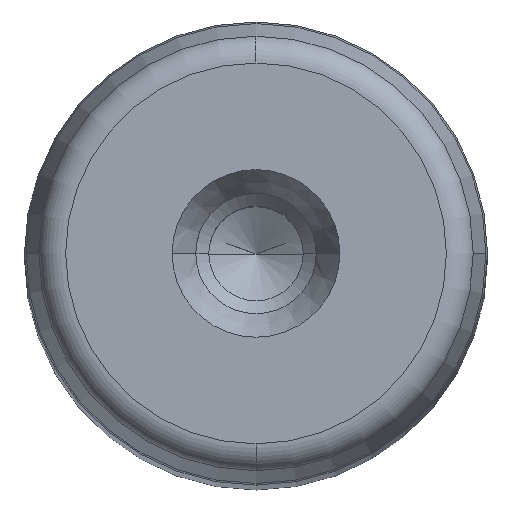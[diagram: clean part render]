
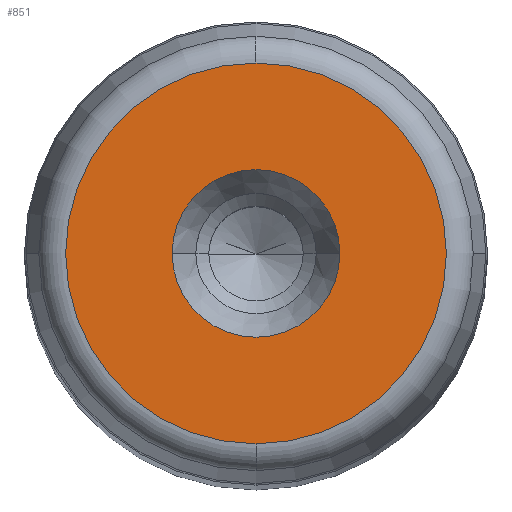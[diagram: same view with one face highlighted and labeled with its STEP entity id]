
A CAD part, top view. The second image highlights one B-rep face of the part: STEP entity #851.
In plain terms, the highlighted planar face has unit normal (0, 0, 1) as drawn and (0, 1, 0) by its records, which use the part's own axes.
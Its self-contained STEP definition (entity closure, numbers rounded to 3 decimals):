
#281=CARTESIAN_POINT('',(9.05,315.0,0.0));
#282=VERTEX_POINT('',#281);
#289=CARTESIAN_POINT('',(-9.05,315.0,0.));
#290=VERTEX_POINT('',#289);
#291=CARTESIAN_POINT('',(0.0,315.0,0.0));
#292=DIRECTION('',(0.0,1.0,0.0));
#293=DIRECTION('',(1.0,0.0,0.0));
#294=AXIS2_PLACEMENT_3D('',#291,#292,#293);
#295=CIRCLE('',#294,9.05);
#296=EDGE_CURVE('',#282,#290,#295,.T.);
#313=CARTESIAN_POINT('',(0.0,315.,20.554));
#314=VERTEX_POINT('',#313);
#324=CARTESIAN_POINT('',(0.,315.,-20.554));
#325=VERTEX_POINT('',#324);
#326=CARTESIAN_POINT('',(0.0,315.,0.0));
#327=DIRECTION('',(0.0,1.0,0.0));
#328=DIRECTION('',(1.0,0.0,0.0));
#329=AXIS2_PLACEMENT_3D('',#326,#327,#328);
#330=CIRCLE('',#329,20.554);
#331=EDGE_CURVE('',#325,#314,#330,.T.);
#812=CARTESIAN_POINT('',(20.554,315.,0.0));
#813=VERTEX_POINT('',#812);
#814=CARTESIAN_POINT('',(0.0,315.,0.0));
#815=DIRECTION('',(0.0,1.0,0.0));
#816=DIRECTION('',(1.0,0.0,0.0));
#817=AXIS2_PLACEMENT_3D('',#814,#815,#816);
#818=CIRCLE('',#817,20.554);
#819=EDGE_CURVE('',#813,#325,#818,.T.);
#821=CARTESIAN_POINT('',(0.0,315.,0.0));
#822=DIRECTION('',(0.0,1.0,0.0));
#823=DIRECTION('',(1.0,0.0,0.0));
#824=AXIS2_PLACEMENT_3D('',#821,#822,#823);
#825=CIRCLE('',#824,20.554);
#826=EDGE_CURVE('',#314,#813,#825,.T.);
#831=CARTESIAN_POINT('',(-22.61,315.0,-22.61));
#832=DIRECTION('',(0.0,1.0,0.0));
#833=DIRECTION('',(0.0,0.0,1.0));
#834=AXIS2_PLACEMENT_3D('',#831,#832,#833);
#835=PLANE('',#834);
#836=ORIENTED_EDGE('',*,*,#819,.T.);
#837=ORIENTED_EDGE('',*,*,#331,.T.);
#838=ORIENTED_EDGE('',*,*,#826,.T.);
#839=EDGE_LOOP('',(#836,#837,#838));
#840=FACE_OUTER_BOUND('',#839,.T.);
#841=ORIENTED_EDGE('',*,*,#296,.F.);
#842=CARTESIAN_POINT('',(0.0,315.0,0.0));
#843=DIRECTION('',(0.0,1.0,0.0));
#844=DIRECTION('',(1.0,0.0,0.0));
#845=AXIS2_PLACEMENT_3D('',#842,#843,#844);
#846=CIRCLE('',#845,9.05);
#847=EDGE_CURVE('',#290,#282,#846,.T.);
#848=ORIENTED_EDGE('',*,*,#847,.F.);
#849=EDGE_LOOP('',(#841,#848));
#850=FACE_BOUND('',#849,.T.);
#851=ADVANCED_FACE('',(#840,#850),#835,.T.);
